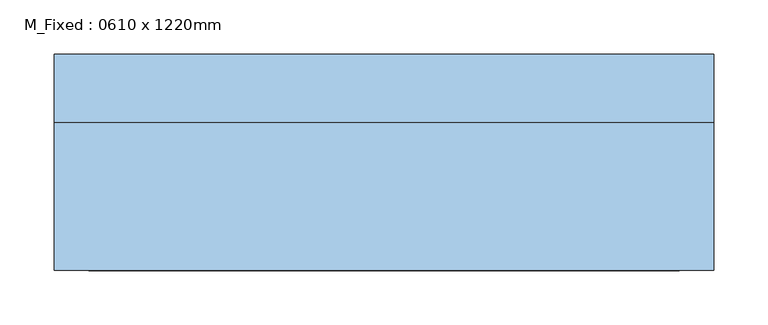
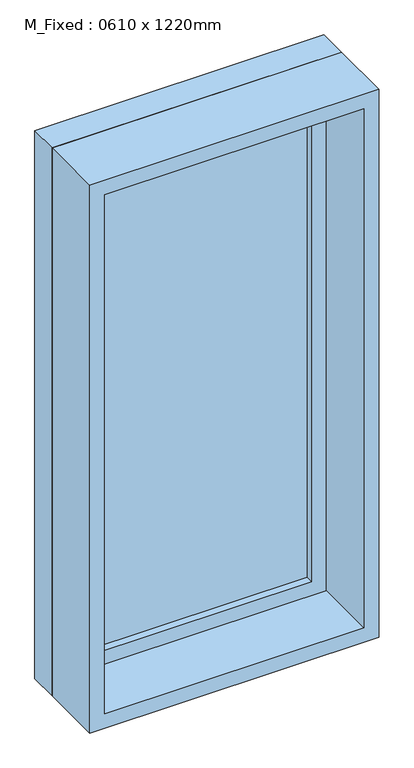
"""IFC4 building model written with IfcOpenShell, lengths in millimetres: window geometry, M_Fixed : 0610 x 1220mm."""

from ifc_helpers import new_model, si_unit, frame, origin, place, context, project, spatial, polyline, outline, extrude, source, transform, mapped, element, save


def m_fixed_0610_x_1220mm_4e981104(model_context):
    return source(origin(), model_context, "Body", "SweptSolid", [
        extrude(outline(polyline([(-242.0, 78.0), (242.0, 78.0), (242.0, 66.0), (-242.0, 66.0), (-242.0, 78.0)])), frame((0.0, 0.0, 978.0), z_axis=(0.0, 0.0, 1.0), x_axis=(1.0, 0.0, 0.0)), (0.0, 0.0, 1.0), 1094.0),
        extrude(outline(polyline([(2116.0, -286.0), (934.0, -286.0), (934.0, 286.0), (2116.0, 286.0), (2116.0, -286.0)]), holes=[polyline([(2072.0, -242.0), (2072.0, 242.0), (978.0, 242.0), (978.0, -242.0), (2072.0, -242.0)])]), frame((0.0, 50.0, 0.0), z_axis=(0.0, 1.0, 0.0), x_axis=(0.0, 0.0, 1.0)), (0.0, 0.0, 1.0), 44.0),
        extrude(outline(polyline([(2135.0, -305.0), (915.0, -305.0), (915.0, 305.0), (2135.0, 305.0), (2135.0, -305.0)]), holes=[polyline([(2116.0, -286.0), (2116.0, 286.0), (934.0, 286.0), (934.0, -286.0), (2116.0, -286.0)])]), frame((0.0, 50.0, 0.0), z_axis=(0.0, 1.0, 0.0), x_axis=(0.0, 0.0, 1.0)), (0.0, 0.0, 1.0), 63.0),
        extrude(outline(polyline([(2135.0, -305.0), (915.0, -305.0), (915.0, 305.0), (2135.0, 305.0), (2135.0, -305.0)]), holes=[polyline([(2103.0, -273.0), (2103.0, 273.0), (947.0, 273.0), (947.0, -273.0), (2103.0, -273.0)])]), frame((0.0, -87.0, 0.0), z_axis=(0.0, 1.0, 0.0), x_axis=(0.0, 0.0, 1.0)), (0.0, 0.0, 1.0), 137.0),
    ])


if __name__ == "__main__":
    model = new_model("IFC4")
    model_context = context("Model", 3, world=origin())
    ifc_project = project(units=[si_unit("LENGTHUNIT", "METRE", prefix="MILLI")], contexts=[model_context])
    site = spatial("IfcSite", under=ifc_project)
    building = spatial("IfcBuilding", under=site)
    placement = place(None, origin())
    m_fixed_0610_x_1220mm_shape = m_fixed_0610_x_1220mm_4e981104(model_context)
    element("IfcWindow", 1, ObjectType="M_Fixed : 0610 x 1220mm", at=placement, inside=building, context=model_context, shape_type="MappedRepresentation", body=[
        mapped(m_fixed_0610_x_1220mm_shape, transform((0.0, 0.0, 0.0), x_axis=(1.0, 0.0, 0.0), y_axis=(0.0, 1.0, 0.0), z_axis=(0.0, 0.0, 1.0))),
    ])
    save(model, "model.ifc")
